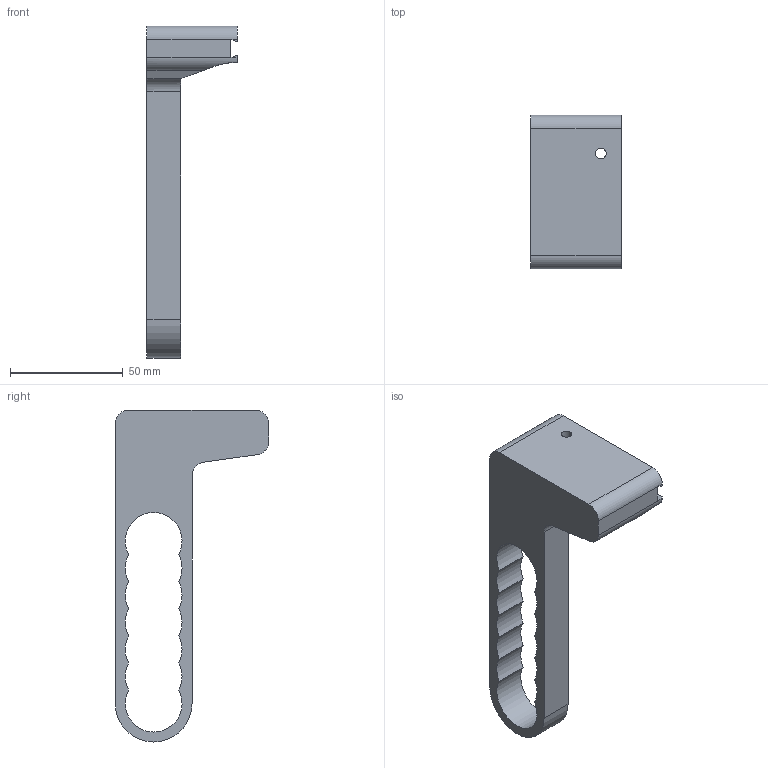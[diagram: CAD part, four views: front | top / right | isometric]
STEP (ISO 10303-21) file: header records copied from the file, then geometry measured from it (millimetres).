
FILE_DESCRIPTION((''),'2;1');
FILE_NAME('VERTIKAL_WANDHALDER_RECHTS','2024-12-04T18:42:11',('rschm'),(''),'CREO PARAMETRIC BY PTC INC, 2023073','CREO PARAMETRIC BY PTC INC, 2023073','');
FILE_SCHEMA(('CONFIG_CONTROL_DESIGN'));
Length unit declared in the file: millimetre
Products named in the file (1): VERTIKAL_WANDHALDER_RECHTS
Bounding box: 40 x 68 x 147 mm (x, y, z)
Volume: 79104.7 mm3; surface area: 20936.5 mm2
Topology: 1 solids, 1 shells, 41 faces, 115 edges, 76 vertices
Faces by surface type: cylinder 22, plane 17, cone 2
Entity records: 1423 total; most frequent: CARTESIAN_POINT 290, DIRECTION 233, ORIENTED_EDGE 230, EDGE_CURVE 115, AXIS2_PLACEMENT_3D 87, VERTEX_POINT 76, VECTOR 59, LINE 59
